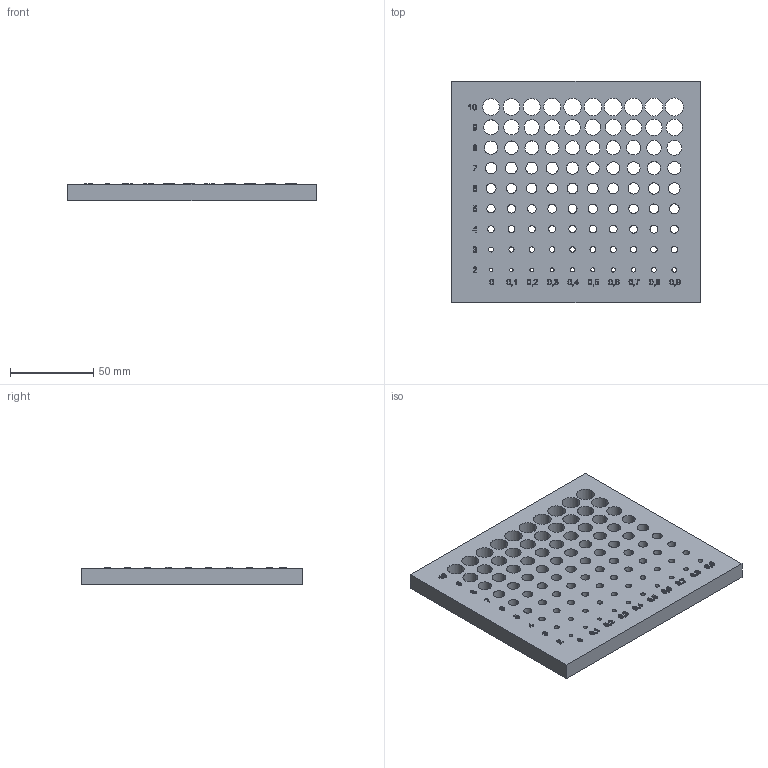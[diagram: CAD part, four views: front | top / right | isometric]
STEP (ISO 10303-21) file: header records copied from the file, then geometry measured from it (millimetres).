
FILE_DESCRIPTION(/* description */ (''),/* implementation_level */ '2;1');
FILE_NAME(/* name */ 'Gewindeeinsatz-Kalibrierlehre',/* time_stamp */ '2026-08-20T15:11:35+02:00',/* author */ (''),/* organization */ (''),/* preprocessor_version */ 'ST-DEVELOPER v19.2',/* originating_system */ 'Rhino 8.34',/* authorisation */ '');
FILE_SCHEMA (('CONFIG_CONTROL_DESIGN'));
Length unit declared in the file: millimetre
Products named in the file (1): Document
Bounding box: 148.93 x 132.93 x 10.5 mm (x, y, z)
Volume: 163848.7 mm3; surface area: 57080.2 mm2
Topology: 39 solids, 39 shells, 505 faces, 1431 edges, 1004 vertices
Faces by surface type: plane 207, cylinder 180, bspline 118
Entity records: 21352 total; most frequent: CARTESIAN_POINT 10282, ORIENTED_EDGE 2562, DIRECTION 1293, EDGE_CURVE 1281, VERTEX_POINT 854, AXIS2_PLACEMENT_3D 840, B_SPLINE_CURVE_WITH_KNOTS 801, EDGE_LOOP 727
